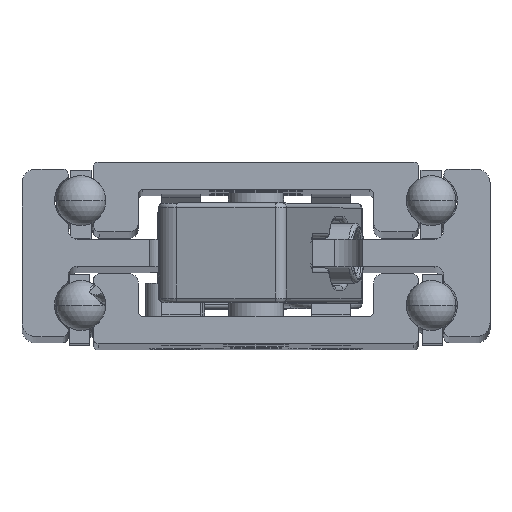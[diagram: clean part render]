
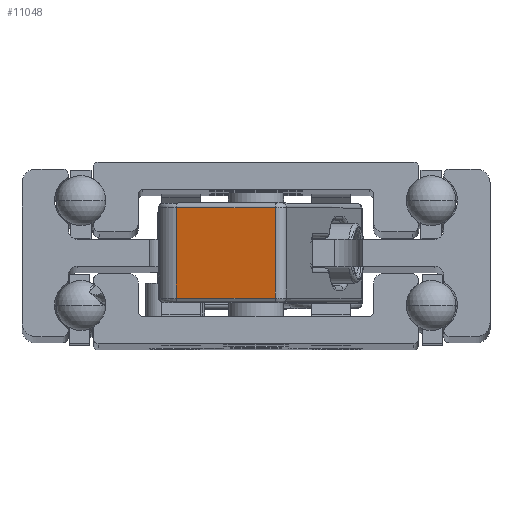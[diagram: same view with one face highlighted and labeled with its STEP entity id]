
A CAD part, top view. The second image highlights one B-rep face of the part: STEP entity #11048.
In plain terms, the highlighted planar face has unit normal (-0.225, 0, 0.974) as drawn and (-1, 0, 0) by its records, which use the part's own axes.
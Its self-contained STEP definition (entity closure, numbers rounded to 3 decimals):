
#1737 = VERTEX_POINT ( 'NONE', #17124 ) ;
#1774 = CARTESIAN_POINT ( 'NONE',  ( -37., -4., -4.9 ) ) ;
#2140 = DIRECTION ( 'NONE',  ( 0., 0., 1. ) ) ;
#2770 = DIRECTION ( 'NONE',  ( 0., 0., -1. ) ) ;
#6046 = FACE_OUTER_BOUND ( 'NONE', #18453, .T. ) ;
#6390 = LINE ( 'NONE', #15395, #9785 ) ;
#8152 = ORIENTED_EDGE ( 'NONE', *, *, #11090, .T. ) ;
#8251 = DIRECTION ( 'NONE',  ( 1., 0., 0. ) ) ;
#9785 = VECTOR ( 'NONE', #2140, 1000. ) ;
#11048 = ADVANCED_FACE ( 'NONE', ( #6046 ), #19511, .F. ) ;
#11090 = EDGE_CURVE ( 'NONE', #23207, #20644, #15200, .T. ) ;
#11529 = EDGE_CURVE ( 'NONE', #1737, #23207, #25085, .T. ) ;
#12841 = DIRECTION ( 'NONE',  ( 0., 1., 0. ) ) ;
#13237 = CARTESIAN_POINT ( 'NONE',  ( -37., 8., -4.9 ) ) ;
#13681 = CARTESIAN_POINT ( 'NONE',  ( -37., 8., 5.4 ) ) ;
#14162 = VECTOR ( 'NONE', #26484, 1000. ) ;
#15200 = LINE ( 'NONE', #1774, #25852 ) ;
#15395 = CARTESIAN_POINT ( 'NONE',  ( -37., -3., 5.4 ) ) ;
#15707 = CARTESIAN_POINT ( 'NONE',  ( -37., -3., -4.9 ) ) ;
#16400 = VECTOR ( 'NONE', #2770, 1000. ) ;
#16702 = EDGE_CURVE ( 'NONE', #20644, #17746, #6390, .T. ) ;
#17124 = CARTESIAN_POINT ( 'NONE',  ( -37., 8., 4.9 ) ) ;
#17289 = CARTESIAN_POINT ( 'NONE',  ( -37., 8., 4.9 ) ) ;
#17746 = VERTEX_POINT ( 'NONE', #23458 ) ;
#18026 = ORIENTED_EDGE ( 'NONE', *, *, #21154, .T. ) ;
#18453 = EDGE_LOOP ( 'NONE', ( #19529, #8152, #23676, #18026 ) ) ;
#19511 = PLANE ( 'NONE',  #23568 ) ;
#19529 = ORIENTED_EDGE ( 'NONE', *, *, #11529, .T. ) ;
#20644 = VERTEX_POINT ( 'NONE', #15707 ) ;
#21154 = EDGE_CURVE ( 'NONE', #17746, #1737, #26932, .T. ) ;
#23207 = VERTEX_POINT ( 'NONE', #13237 ) ;
#23458 = CARTESIAN_POINT ( 'NONE',  ( -37., -3., 4.9 ) ) ;
#23568 = AXIS2_PLACEMENT_3D ( 'NONE', #28519, #8251, #12841 ) ;
#23676 = ORIENTED_EDGE ( 'NONE', *, *, #16702, .T. ) ;
#24534 = DIRECTION ( 'NONE',  ( 0., -1., 0. ) ) ;
#25085 = LINE ( 'NONE', #13681, #16400 ) ;
#25852 = VECTOR ( 'NONE', #24534, 1000. ) ;
#26484 = DIRECTION ( 'NONE',  ( 0., 1., 0. ) ) ;
#26932 = LINE ( 'NONE', #17289, #14162 ) ;
#28519 = CARTESIAN_POINT ( 'NONE',  ( -37., -4., 5.4 ) ) ;
